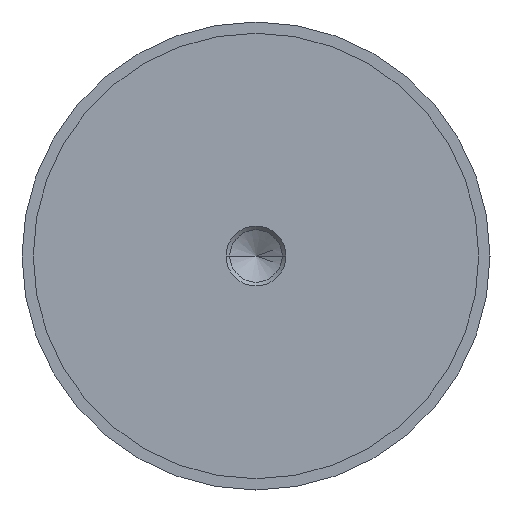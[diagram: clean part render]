
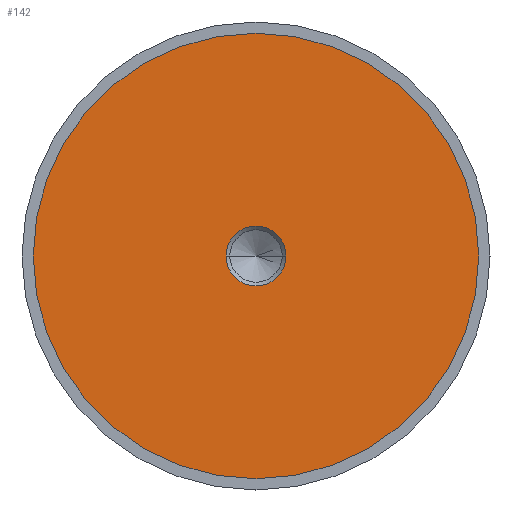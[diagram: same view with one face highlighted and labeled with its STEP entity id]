
A CAD part, left-side view. The second image highlights one B-rep face of the part: STEP entity #142.
In plain terms, the highlighted planar face has unit normal (-1, 0, 0).
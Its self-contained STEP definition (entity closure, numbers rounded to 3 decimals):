
#2 = DIRECTION ( 'NONE',  ( 0., 0., 1. ) ) ;
#20 = CIRCLE ( 'NONE', #222, 7.99 ) ;
#21 = DIRECTION ( 'NONE',  ( 1., 0., 0. ) ) ;
#22 = DIRECTION ( 'NONE',  ( 0., 0., -1. ) ) ;
#25 = PLANE ( 'NONE',  #576 ) ;
#27 = VERTEX_POINT ( 'NONE', #558 ) ;
#45 = CIRCLE ( 'NONE', #550, 59.5 ) ;
#51 = CARTESIAN_POINT ( 'NONE',  ( -37.49, 0., -59.5 ) ) ;
#53 = CARTESIAN_POINT ( 'NONE',  ( -37.49, 0., 0. ) ) ;
#78 = CIRCLE ( 'NONE', #100, 7.99 ) ;
#100 = AXIS2_PLACEMENT_3D ( 'NONE', #392, #234, #172 ) ;
#103 = EDGE_LOOP ( 'NONE', ( #714, #601 ) ) ;
#127 = DIRECTION ( 'NONE',  ( 1., 0., 0. ) ) ;
#142 = ADVANCED_FACE ( 'NONE', ( #309, #630 ), #25, .F. ) ;
#146 = ORIENTED_EDGE ( 'NONE', *, *, #268, .T. ) ;
#165 = VERTEX_POINT ( 'NONE', #51 ) ;
#172 = DIRECTION ( 'NONE',  ( 0., 0., -1. ) ) ;
#184 = CARTESIAN_POINT ( 'NONE',  ( -37.49, 59.5, 0. ) ) ;
#197 = ORIENTED_EDGE ( 'NONE', *, *, #544, .T. ) ;
#213 = DIRECTION ( 'NONE',  ( 0., 0., 1. ) ) ;
#222 = AXIS2_PLACEMENT_3D ( 'NONE', #53, #127, #22 ) ;
#234 = DIRECTION ( 'NONE',  ( 1., 0., 0. ) ) ;
#242 = DIRECTION ( 'NONE',  ( 0., 0., -1. ) ) ;
#268 = EDGE_CURVE ( 'NONE', #27, #165, #446, .T. ) ;
#278 = CARTESIAN_POINT ( 'NONE',  ( -37.49, -7.99, 0. ) ) ;
#281 = CARTESIAN_POINT ( 'NONE',  ( -37.49, 0., 0. ) ) ;
#309 = FACE_BOUND ( 'NONE', #103, .T. ) ;
#384 = AXIS2_PLACEMENT_3D ( 'NONE', #456, #676, #213 ) ;
#392 = CARTESIAN_POINT ( 'NONE',  ( -37.49, 0., 0. ) ) ;
#446 = CIRCLE ( 'NONE', #384, 59.5 ) ;
#456 = CARTESIAN_POINT ( 'NONE',  ( -37.49, 0., 0. ) ) ;
#500 = DIRECTION ( 'NONE',  ( -1., 0., 0. ) ) ;
#530 = VERTEX_POINT ( 'NONE', #278 ) ;
#544 = EDGE_CURVE ( 'NONE', #165, #27, #45, .T. ) ;
#550 = AXIS2_PLACEMENT_3D ( 'NONE', #281, #500, #2 ) ;
#553 = EDGE_CURVE ( 'NONE', #530, #703, #20, .T. ) ;
#555 = EDGE_CURVE ( 'NONE', #703, #530, #78, .T. ) ;
#558 = CARTESIAN_POINT ( 'NONE',  ( -37.49, 0., 59.5 ) ) ;
#576 = AXIS2_PLACEMENT_3D ( 'NONE', #184, #21, #242 ) ;
#601 = ORIENTED_EDGE ( 'NONE', *, *, #555, .T. ) ;
#630 = FACE_OUTER_BOUND ( 'NONE', #652, .T. ) ;
#652 = EDGE_LOOP ( 'NONE', ( #146, #197 ) ) ;
#653 = CARTESIAN_POINT ( 'NONE',  ( -37.49, 7.99, 0. ) ) ;
#676 = DIRECTION ( 'NONE',  ( -1., 0., 0. ) ) ;
#703 = VERTEX_POINT ( 'NONE', #653 ) ;
#714 = ORIENTED_EDGE ( 'NONE', *, *, #553, .T. ) ;
